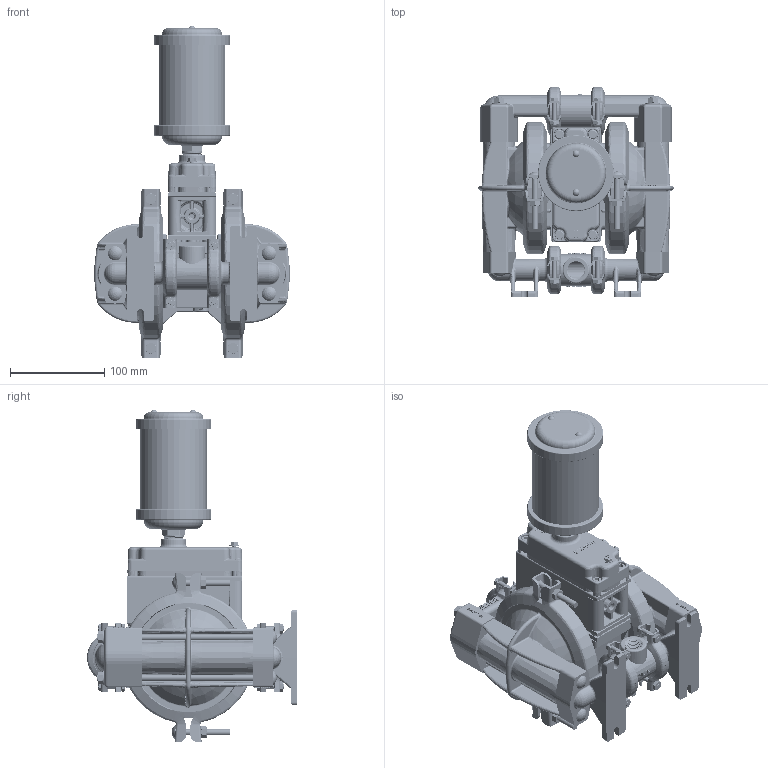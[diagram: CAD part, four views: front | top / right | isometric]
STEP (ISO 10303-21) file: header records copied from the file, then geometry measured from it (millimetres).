
FILE_DESCRIPTION((''),'2;1');
FILE_NAME('PS1_CLAMPED_AL_TOP_SW0001','2017-06-01T',('10013162'),(''),'PRO/ENGINEER BY PARAMETRIC TECHNOLOGY CORPORATION, 2015360','PRO/ENGINEER BY PARAMETRIC TECHNOLOGY CORPORATION, 2015360','');
FILE_SCHEMA(('CONFIG_CONTROL_DESIGN'));
Length unit declared in the file: inch
Products named in the file (1): PS1_CLAMPED_AL_TOP_SW0001
Bounding box: 207.26 x 223.01 x 352.53 mm (x, y, z)
Volume: 2074923.1 mm3; surface area: 630582.7 mm2
Topology: 7 solids, 7 shells, 13172 faces, 35045 edges, 22309 vertices
Faces by surface type: plane 8816, bspline 1702, cylinder 1307, cone 642, torus 458, sphere 247
Entity records: 732754 total; most frequent: CARTESIAN_POINT 421757, ORIENTED_EDGE 70042, DIRECTION 55687, EDGE_CURVE 35021, VECTOR 23527, LINE 23527, VERTEX_POINT 22309, AXIS2_PLACEMENT_3D 16080
